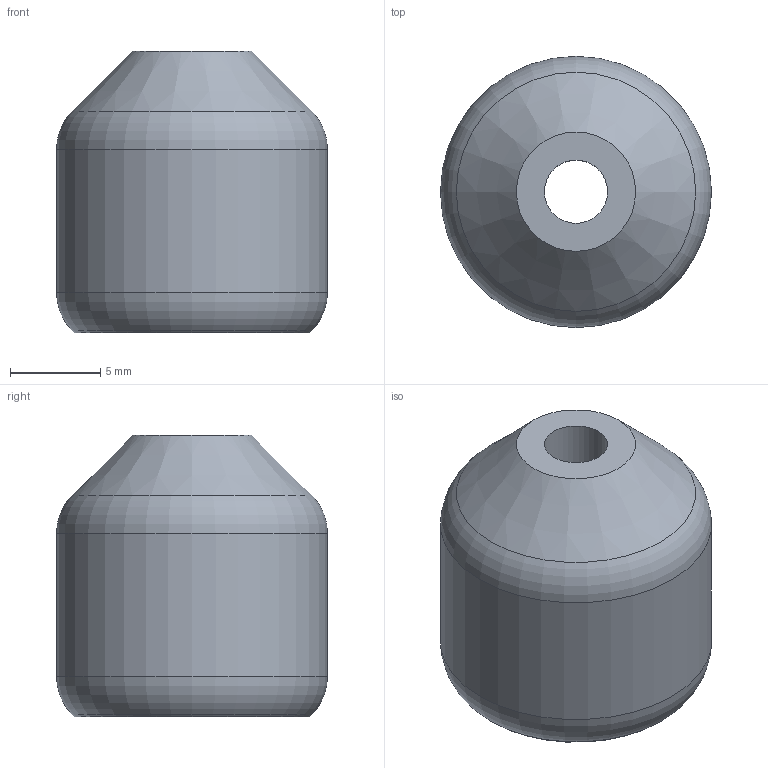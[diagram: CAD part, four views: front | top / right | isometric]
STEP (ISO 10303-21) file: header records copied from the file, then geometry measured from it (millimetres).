
FILE_DESCRIPTION(/* description */ ('STEP AP242','CAx-IF Rec.Pracs.---Representation and Presentation of Product Manufacturing Information (PMI)---4.0---2014-10-13','CAx-IF Rec.Pracs.---3D Tessellated Geometry---0.4---2014-09-14','2;1'),/* implementation_level */ '2;1');
FILE_NAME(/* name */ '6461666a30af470c88b84ed1',/* time_stamp */ '2023-05-14T22:53:30Z',/* author */ (''),/* organization */ (''),/* preprocessor_version */ 'ST-DEVELOPER v19.4',/* originating_system */ ' ',/* authorisation */ ' ');
FILE_SCHEMA (('AP242_MANAGED_MODEL_BASED_3D_ENGINEERING_MIM_LF { 1 0 10303 442 1 1 4 }'));
Length unit declared in the file: metre
Products named in the file (1): Handle
Bounding box: 15 x 15 x 15.6 mm (x, y, z)
Volume: 2004.8 mm3; surface area: 1132.3 mm2
Topology: 1 solids, 1 shells, 10 faces, 21 edges, 13 vertices
Faces by surface type: cylinder 3, cone 3, plane 2, torus 2
Full cylindrical faces by diameter (mm): 3.5 x1, 6.7 x1, 15 x1
Entity records: 230 total; most frequent: DIRECTION 42, CARTESIAN_POINT 31, AXIS2_PLACEMENT_3D 21, ORIENTED_EDGE 20, EDGE_LOOP 20, FACE_BOUND 20, EDGE_CURVE 10, VERTEX_POINT 10
